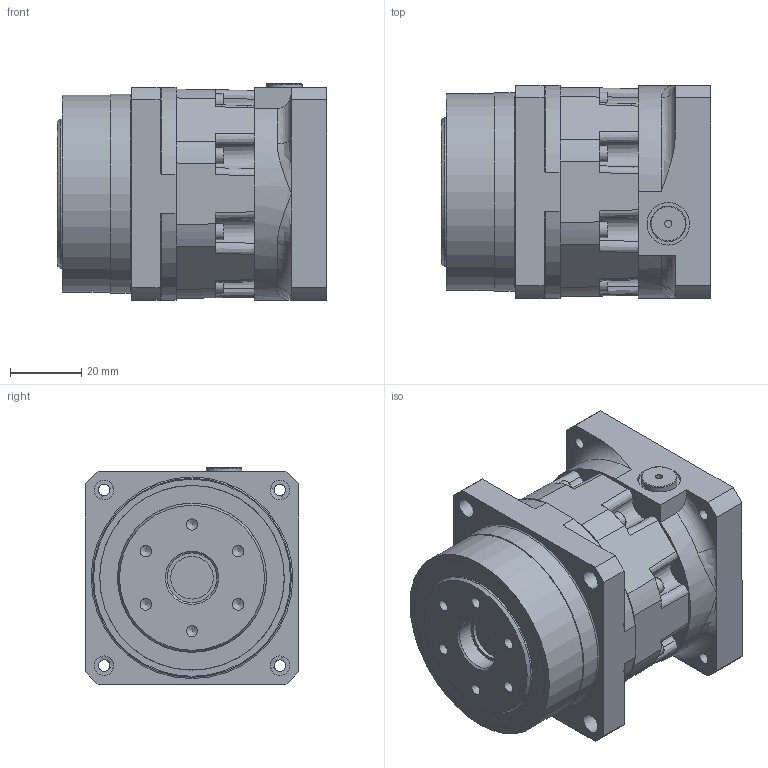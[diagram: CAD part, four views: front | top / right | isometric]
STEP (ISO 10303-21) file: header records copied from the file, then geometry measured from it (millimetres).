
FILE_DESCRIPTION(/* description */ ('ANFX-P110F-1-2P'),/* implementation_level */ '2;1');
FILE_NAME(/* name */ 'C:\Users\ADMINI~1\AppData\Local\Temp\MM577632_ANFX-P110F-1-2P.stp',/* time_stamp */ '2018-06-20T09:08:18+02:00',/* author */ ('Max'),/* organization */ (''),/* preprocessor_version */ 'ST-DEVELOPER v17',/* originating_system */ 'Autodesk Inventor 2018',/* authorisation */ '');
FILE_SCHEMA (('AUTOMOTIVE_DESIGN { 1 0 10303 214 3 1 1 }'));
Length unit declared in the file: millimetre
Products named in the file (16): MM579792; MMBG0004139; MMCL239LG; MMCL240LG; MAW8353G; MAX4839G; MMBG0004131; MMCH473LG; MMAP6508G; 009M004R012NG; 202119; ISO 4762 - M2,5 x 16; 530N20357---G; 135352; MAW8349G; M009M004R022NG
Assembly tree (25 placements, depth 3):
  MM579792
    MMBG0004139
      MMCL239LG
      MMCL240LG
      MAW8353G
      MAX4839G
    MMBG0004131
      MMCH473LG
      MMAP6508G
      009M004R012NG
      202119
      ISO 4762 - M2,5 x 16  x8
      530N20357---G
    135352
    MAW8349G
    M009M004R022NG  x4
Bounding box: 76 x 60 x 61 mm (x, y, z)
Volume: 141987 mm3; surface area: 80804.2 mm2
Topology: 92 solids, 93 shells, 612 faces, 1756 edges, 1231 vertices
Faces by surface type: plane 227, cylinder 159, cone 85, sphere 68, torus 51, bspline 22
Full cylindrical faces by diameter (mm): 2 x1, 2.013 x8, 2.459 x1, 2.5 x8, 3 x8, 3.242 x19, 4 x5, 4.5 x13, 5.5 x4, 7 x5, 7.8 x1, 8 x5, 8.2 x1, 8.4 x1, 10 x1, 12 x2, 14 x1, 14.5 x1, 17.5 x1, 19 x1, 19.4 x1, 19.6 x1, 20 x2, 20.5 x1, 25.172 x2, 27.5 x4, 28 x1, 32 x1, 32.2 x1, 35 x2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
Entity records: 18687 total; most frequent: CARTESIAN_POINT 5717, DIRECTION 2738, ORIENTED_EDGE 2382, AXIS2_PLACEMENT_3D 1202, EDGE_CURVE 1191, VERTEX_POINT 950, CIRCLE 718, EDGE_LOOP 589
